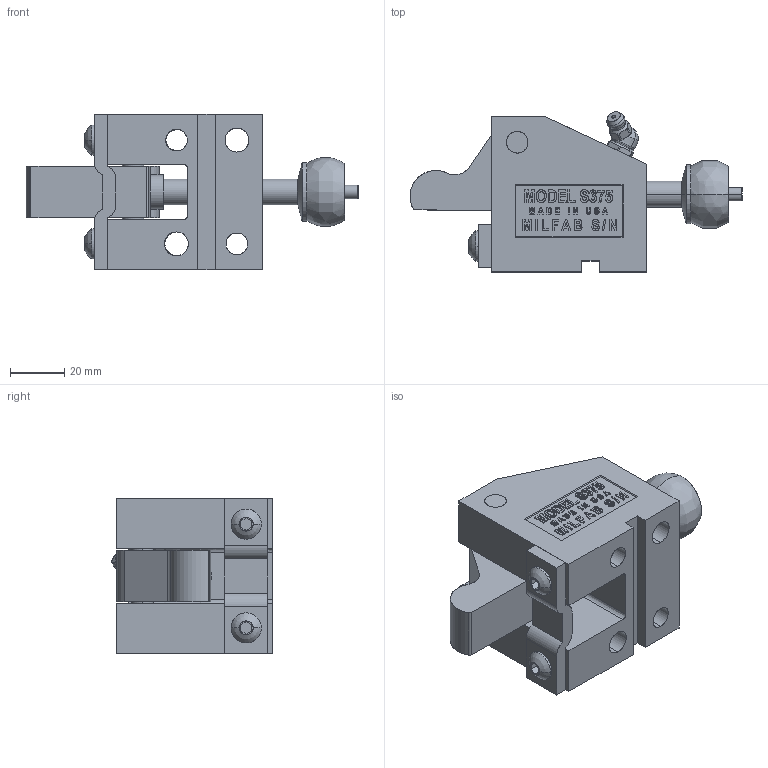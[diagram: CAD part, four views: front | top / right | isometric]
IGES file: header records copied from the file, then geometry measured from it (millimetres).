
Start section: SolidWorks IGES file using analytic representation for surfaces
Global section: file name: Y:\JIM'S INCH CAM UNITS\S37545\CLOSED\S37545-C.IGS; native system: SolidWorks 2006 by SolidWorks Corporation; preprocessor: SolidWorks 2006 by SolidWorks Corporation; author: Jim; date: 090207.151534; units: inch
Bounding box: 121.9 x 58.85 x 57.15 mm (x, y, z)
Surface area: 44480.1 mm2 (no closed solid volume)
Topology: 0 solids, 0 shells, 577 faces, 7307 edges, 7305 vertices
Faces by surface type: bspline 451, revolution 126
